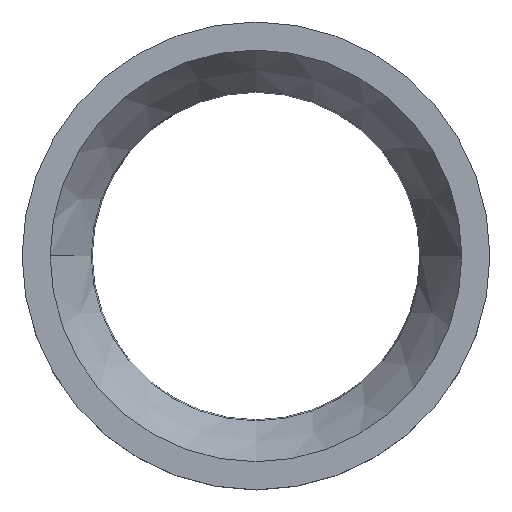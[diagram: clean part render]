
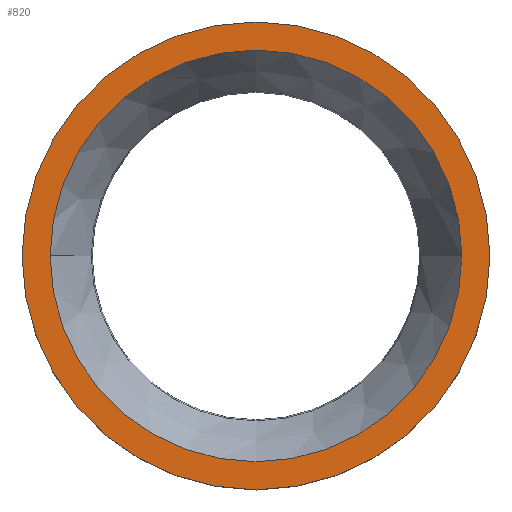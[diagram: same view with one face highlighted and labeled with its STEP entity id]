
A CAD part, top view. The second image highlights one B-rep face of the part: STEP entity #820.
In plain terms, the highlighted planar face has unit normal (0, 0, 1).
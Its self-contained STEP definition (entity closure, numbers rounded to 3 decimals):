
#125=CARTESIAN_POINT('',(0.,0.,22.));
#126=DIRECTION('',(0.,0.,1.));
#127=DIRECTION('',(1.,0.,0.));
#128=AXIS2_PLACEMENT_3D('',#125,#126,#127);
#130=CARTESIAN_POINT('',(0.,0.,22.));
#131=DIRECTION('',(0.,0.,1.));
#132=DIRECTION('',(-1.,0.,0.));
#133=AXIS2_PLACEMENT_3D('',#130,#131,#132);
#135=CARTESIAN_POINT('',(0.,0.,
22.));
#136=DIRECTION('',(0.,0.,-1.));
#137=DIRECTION('',(1.,0.,0.));
#138=AXIS2_PLACEMENT_3D('',#135,#136,#137);
#140=CARTESIAN_POINT('',(0.,0.,22.));
#141=DIRECTION('',(0.,0.,-1.));
#142=DIRECTION('',(-1.,0.,0.));
#143=AXIS2_PLACEMENT_3D('',#140,#141,#142);
#515=CARTESIAN_POINT('',(50.,0.,22.));
#516=CARTESIAN_POINT('',(-50.,0.,22.));
#517=VERTEX_POINT('',#515);
#518=VERTEX_POINT('',#516);
#519=CARTESIAN_POINT('',(44.,0.,
22.));
#520=CARTESIAN_POINT('',(-44.,0.,
22.));
#521=VERTEX_POINT('',#519);
#522=VERTEX_POINT('',#520);
#805=CARTESIAN_POINT('',(0.,0.,22.));
#806=DIRECTION('',(0.,0.,1.));
#807=DIRECTION('',(1.,0.,0.));
#808=AXIS2_PLACEMENT_3D('',#805,#806,#807);
#809=PLANE('',#808);
#811=ORIENTED_EDGE('',*,*,#810,.F.);
#813=ORIENTED_EDGE('',*,*,#812,.F.);
#814=EDGE_LOOP('',(#811,#813));
#815=FACE_OUTER_BOUND('',#814,.F.);
#816=ORIENTED_EDGE('',*,*,#785,.F.);
#817=ORIENTED_EDGE('',*,*,#799,.F.);
#818=EDGE_LOOP('',(#816,#817));
#819=FACE_BOUND('',#818,.F.);
#129=CIRCLE('',#128,50.);
#134=CIRCLE('',#133,50.);
#139=CIRCLE('',#138,44.);
#144=CIRCLE('',#143,44.);
#785=EDGE_CURVE('',#521,#522,#139,.T.);
#799=EDGE_CURVE('',#522,#521,#144,.T.);
#810=EDGE_CURVE('',#517,#518,#129,.T.);
#812=EDGE_CURVE('',#518,#517,#134,.T.);
#820=ADVANCED_FACE('',(#815,#819),#809,.T.);
